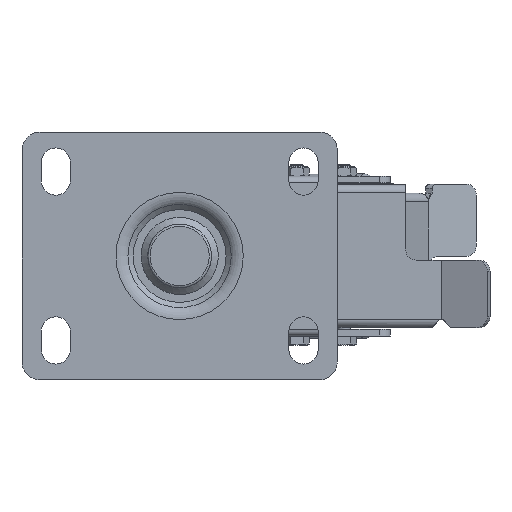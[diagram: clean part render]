
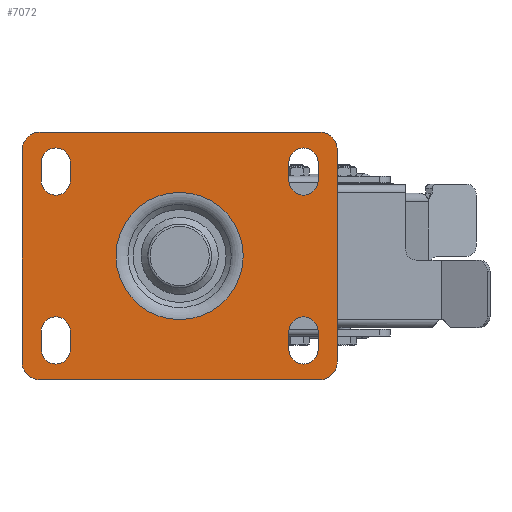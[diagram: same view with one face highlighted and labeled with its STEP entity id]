
A CAD part, top view. The second image highlights one B-rep face of the part: STEP entity #7072.
In plain terms, the highlighted planar face has unit normal (0, 0, 1).
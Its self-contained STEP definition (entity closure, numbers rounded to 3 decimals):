
#786=(
BOUNDED_CURVE()
B_SPLINE_CURVE(3,(#44615,#44616,#44617,#44618,#44619,#44620,#44621,#44622,
#44623,#44624),.UNSPECIFIED.,.F.,.F.)
B_SPLINE_CURVE_WITH_KNOTS((4,3,3,4),(0.,0.094,0.924,
1.),.UNSPECIFIED.)
CURVE()
GEOMETRIC_REPRESENTATION_ITEM()
RATIONAL_B_SPLINE_CURVE((0.586,0.471,0.471,
0.586,0.586,0.586,0.586,
0.471,0.471,0.586))
REPRESENTATION_ITEM('')
);
#787=(
BOUNDED_CURVE()
B_SPLINE_CURVE(3,(#44627,#44628,#44629,#44630,#44631,#44632,#44633,#44634,
#44635,#44636,#44637,#44638,#44639,#44640,#44641,#44642),.UNSPECIFIED.,.F.,
 .F.)
B_SPLINE_CURVE_WITH_KNOTS((4,3,3,3,3,4),(0.,0.342,0.383,
0.746,0.779,1.),.UNSPECIFIED.)
CURVE()
GEOMETRIC_REPRESENTATION_ITEM()
RATIONAL_B_SPLINE_CURVE((0.586,0.586,0.586,
0.586,0.471,0.471,0.586,
0.586,0.586,0.586,0.471,
0.471,0.586,0.586,0.586,
0.586))
REPRESENTATION_ITEM('')
);
#2864=PLANE('',#24387);
#3734=LINE('',#44583,#4954);
#3735=LINE('',#44588,#4955);
#3736=LINE('',#44594,#4956);
#3737=LINE('',#44598,#4957);
#3738=LINE('',#44602,#4958);
#3739=LINE('',#44606,#4959);
#3740=LINE('',#44607,#4960);
#3741=LINE('',#44612,#4961);
#4954=VECTOR('',#27056,1.);
#4955=VECTOR('',#27059,1.);
#4956=VECTOR('',#27064,1.);
#4957=VECTOR('',#27067,1.);
#4958=VECTOR('',#27070,1.);
#4959=VECTOR('',#27073,1.);
#4960=VECTOR('',#27074,1.);
#4961=VECTOR('',#27077,1.);
#7072=ADVANCED_FACE('',(#8659,#8660,#8661,#8662,#8663,#8664),#2864,.F.);
#8659=FACE_BOUND('',#9334,.T.);
#8660=FACE_BOUND('',#9335,.T.);
#8661=FACE_BOUND('',#9336,.T.);
#8662=FACE_BOUND('',#9337,.T.);
#8663=FACE_BOUND('',#9338,.T.);
#8664=FACE_BOUND('',#9339,.T.);
#9334=EDGE_LOOP('',(#12360,#12361,#12362,#12363));
#9335=EDGE_LOOP('',(#12364,#12365,#12366,#12367));
#9336=EDGE_LOOP('',(#12368,#12369,#12370,#12371));
#9337=EDGE_LOOP('',(#12372,#12373,#12374,#12375));
#9338=EDGE_LOOP('',(#12376));
#9339=EDGE_LOOP('',(#12377,#12378));
#12360=ORIENTED_EDGE('',*,*,#20760,.F.);
#12361=ORIENTED_EDGE('',*,*,#20761,.F.);
#12362=ORIENTED_EDGE('',*,*,#20762,.F.);
#12363=ORIENTED_EDGE('',*,*,#20763,.F.);
#12364=ORIENTED_EDGE('',*,*,#20764,.F.);
#12365=ORIENTED_EDGE('',*,*,#20765,.T.);
#12366=ORIENTED_EDGE('',*,*,#20766,.T.);
#12367=ORIENTED_EDGE('',*,*,#20767,.T.);
#12368=ORIENTED_EDGE('',*,*,#20768,.T.);
#12369=ORIENTED_EDGE('',*,*,#20769,.F.);
#12370=ORIENTED_EDGE('',*,*,#20770,.F.);
#12371=ORIENTED_EDGE('',*,*,#20771,.F.);
#12372=ORIENTED_EDGE('',*,*,#20772,.F.);
#12373=ORIENTED_EDGE('',*,*,#20773,.F.);
#12374=ORIENTED_EDGE('',*,*,#20774,.F.);
#12375=ORIENTED_EDGE('',*,*,#20775,.F.);
#12376=ORIENTED_EDGE('',*,*,#20759,.T.);
#12377=ORIENTED_EDGE('',*,*,#20776,.T.);
#12378=ORIENTED_EDGE('',*,*,#20777,.T.);
#18299=VERTEX_POINT('',#44581);
#18300=VERTEX_POINT('',#44584);
#18301=VERTEX_POINT('',#44585);
#18302=VERTEX_POINT('',#44587);
#18303=VERTEX_POINT('',#44589);
#18304=VERTEX_POINT('',#44592);
#18305=VERTEX_POINT('',#44593);
#18306=VERTEX_POINT('',#44595);
#18307=VERTEX_POINT('',#44597);
#18308=VERTEX_POINT('',#44600);
#18309=VERTEX_POINT('',#44601);
#18310=VERTEX_POINT('',#44603);
#18311=VERTEX_POINT('',#44605);
#18312=VERTEX_POINT('',#44608);
#18313=VERTEX_POINT('',#44609);
#18314=VERTEX_POINT('',#44611);
#18315=VERTEX_POINT('',#44613);
#18316=VERTEX_POINT('',#44625);
#18317=VERTEX_POINT('',#44626);
#20759=EDGE_CURVE('',#18299,#18299,#23459,.T.);
#20760=EDGE_CURVE('',#18300,#18301,#3734,.T.);
#20761=EDGE_CURVE('',#18302,#18300,#23460,.T.);
#20762=EDGE_CURVE('',#18303,#18302,#3735,.T.);
#20763=EDGE_CURVE('',#18301,#18303,#23461,.T.);
#20764=EDGE_CURVE('',#18304,#18305,#23462,.T.);
#20765=EDGE_CURVE('',#18304,#18306,#3736,.T.);
#20766=EDGE_CURVE('',#18306,#18307,#23463,.T.);
#20767=EDGE_CURVE('',#18307,#18305,#3737,.T.);
#20768=EDGE_CURVE('',#18308,#18309,#23464,.T.);
#20769=EDGE_CURVE('',#18310,#18309,#3738,.T.);
#20770=EDGE_CURVE('',#18311,#18310,#23465,.T.);
#20771=EDGE_CURVE('',#18308,#18311,#3739,.T.);
#20772=EDGE_CURVE('',#18312,#18313,#3740,.T.);
#20773=EDGE_CURVE('',#18314,#18312,#23466,.T.);
#20774=EDGE_CURVE('',#18315,#18314,#3741,.T.);
#20775=EDGE_CURVE('',#18313,#18315,#23467,.T.);
#20776=EDGE_CURVE('',#18316,#18317,#786,.T.);
#20777=EDGE_CURVE('',#18317,#18316,#787,.T.);
#23459=CIRCLE('',#24377,28.243);
#23460=CIRCLE('',#24379,6.5);
#23461=CIRCLE('',#24380,6.5);
#23462=CIRCLE('',#24381,6.5);
#23463=CIRCLE('',#24382,6.5);
#23464=CIRCLE('',#24383,6.5);
#23465=CIRCLE('',#24384,6.5);
#23466=CIRCLE('',#24385,6.5);
#23467=CIRCLE('',#24386,6.5);
#24377=AXIS2_PLACEMENT_3D('',#44580,#27052,#27053);
#24379=AXIS2_PLACEMENT_3D('',#44586,#27057,#27058);
#24380=AXIS2_PLACEMENT_3D('',#44590,#27060,#27061);
#24381=AXIS2_PLACEMENT_3D('',#44591,#27062,#27063);
#24382=AXIS2_PLACEMENT_3D('',#44596,#27065,#27066);
#24383=AXIS2_PLACEMENT_3D('',#44599,#27068,#27069);
#24384=AXIS2_PLACEMENT_3D('',#44604,#27071,#27072);
#24385=AXIS2_PLACEMENT_3D('',#44610,#27075,#27076);
#24386=AXIS2_PLACEMENT_3D('',#44614,#27078,#27079);
#24387=AXIS2_PLACEMENT_3D('',#44643,#27080,#27081);
#27052=DIRECTION('',(0.,0.,-1.));
#27053=DIRECTION('',(1.,0.,0.));
#27056=DIRECTION('',(0.,-1.,0.));
#27057=DIRECTION('',(0.,0.,1.));
#27058=DIRECTION('',(1.,0.,0.));
#27059=DIRECTION('',(0.,1.,0.));
#27060=DIRECTION('',(0.,0.,1.));
#27061=DIRECTION('',(1.,0.,0.));
#27062=DIRECTION('',(0.,0.,1.));
#27063=DIRECTION('',(1.,0.,0.));
#27064=DIRECTION('',(0.,1.,0.));
#27065=DIRECTION('',(0.,0.,-1.));
#27066=DIRECTION('',(1.,0.,0.));
#27067=DIRECTION('',(0.,-1.,0.));
#27068=DIRECTION('',(0.,0.,-1.));
#27069=DIRECTION('',(1.,0.,0.));
#27070=DIRECTION('',(0.,-1.,0.));
#27071=DIRECTION('',(0.,0.,1.));
#27072=DIRECTION('',(1.,0.,0.));
#27073=DIRECTION('',(0.,1.,0.));
#27074=DIRECTION('',(0.,-1.,0.));
#27075=DIRECTION('',(0.,0.,1.));
#27076=DIRECTION('',(1.,0.,0.));
#27077=DIRECTION('',(0.,1.,0.));
#27078=DIRECTION('',(0.,0.,1.));
#27079=DIRECTION('',(1.,0.,0.));
#27080=DIRECTION('',(0.,0.,-1.));
#27081=DIRECTION('',(-1.,0.,0.));
#44580=CARTESIAN_POINT('',(0.,0.,0.));
#44581=CARTESIAN_POINT('',(28.243,0.,0.));
#44583=CARTESIAN_POINT('',(-61.5,-55.,0.));
#44584=CARTESIAN_POINT('',(-61.5,-33.5,0.));
#44585=CARTESIAN_POINT('',(-61.5,-41.5,0.));
#44586=CARTESIAN_POINT('',(-55.,-33.5,0.));
#44587=CARTESIAN_POINT('',(-48.5,-33.5,0.));
#44588=CARTESIAN_POINT('',(-48.5,-55.,0.));
#44589=CARTESIAN_POINT('',(-48.5,-41.5,0.));
#44590=CARTESIAN_POINT('',(-55.,-41.5,0.));
#44591=CARTESIAN_POINT('',(-55.,33.5,0.));
#44592=CARTESIAN_POINT('',(-61.5,33.5,0.));
#44593=CARTESIAN_POINT('',(-48.5,33.5,0.));
#44594=CARTESIAN_POINT('',(-61.5,-55.,0.));
#44595=CARTESIAN_POINT('',(-61.5,41.5,0.));
#44596=CARTESIAN_POINT('',(-55.,41.5,0.));
#44597=CARTESIAN_POINT('',(-48.5,41.5,0.));
#44598=CARTESIAN_POINT('',(-48.5,-55.,0.));
#44599=CARTESIAN_POINT('',(55.,33.5,0.));
#44600=CARTESIAN_POINT('',(61.5,33.5,0.));
#44601=CARTESIAN_POINT('',(48.5,33.5,0.));
#44602=CARTESIAN_POINT('',(48.5,-55.,0.));
#44603=CARTESIAN_POINT('',(48.5,41.5,0.));
#44604=CARTESIAN_POINT('',(55.,41.5,0.));
#44605=CARTESIAN_POINT('',(61.5,41.5,0.));
#44606=CARTESIAN_POINT('',(61.5,-55.,0.));
#44607=CARTESIAN_POINT('',(48.5,-55.,0.));
#44608=CARTESIAN_POINT('',(48.5,-33.5,0.));
#44609=CARTESIAN_POINT('',(48.5,-41.5,0.));
#44610=CARTESIAN_POINT('',(55.,-33.5,0.));
#44611=CARTESIAN_POINT('',(61.5,-33.5,0.));
#44612=CARTESIAN_POINT('',(61.5,-55.,0.));
#44613=CARTESIAN_POINT('',(61.5,-41.5,0.));
#44614=CARTESIAN_POINT('',(55.,-41.5,0.));
#44615=CARTESIAN_POINT('',(-70.,-47.,0.));
#44616=CARTESIAN_POINT('',(-70.,-51.686,0.));
#44617=CARTESIAN_POINT('',(-66.686,-55.,0.));
#44618=CARTESIAN_POINT('',(-62.,-55.,0.));
#44619=CARTESIAN_POINT('',(-20.667,-55.,0.));
#44620=CARTESIAN_POINT('',(20.667,-55.,0.));
#44621=CARTESIAN_POINT('',(62.,-55.,0.));
#44622=CARTESIAN_POINT('',(66.686,-55.,0.));
#44623=CARTESIAN_POINT('',(70.,-51.686,0.));
#44624=CARTESIAN_POINT('',(70.,-47.,0.));
#44625=CARTESIAN_POINT('',(-70.,-47.,0.));
#44626=CARTESIAN_POINT('',(70.,-47.,0.));
#44627=CARTESIAN_POINT('',(70.,-47.,0.));
#44628=CARTESIAN_POINT('',(70.,-15.667,0.));
#44629=CARTESIAN_POINT('',(70.,15.667,0.));
#44630=CARTESIAN_POINT('',(70.,47.,0.));
#44631=CARTESIAN_POINT('',(70.,51.686,0.));
#44632=CARTESIAN_POINT('',(66.686,55.,0.));
#44633=CARTESIAN_POINT('',(62.,55.,0.));
#44634=CARTESIAN_POINT('',(20.667,55.,0.));
#44635=CARTESIAN_POINT('',(-20.667,55.,0.));
#44636=CARTESIAN_POINT('',(-62.,55.,0.));
#44637=CARTESIAN_POINT('',(-66.686,55.,0.));
#44638=CARTESIAN_POINT('',(-70.,51.686,0.));
#44639=CARTESIAN_POINT('',(-70.,47.,0.));
#44640=CARTESIAN_POINT('',(-70.,15.667,0.));
#44641=CARTESIAN_POINT('',(-70.,-15.667,0.));
#44642=CARTESIAN_POINT('',(-70.,-47.,0.));
#44643=CARTESIAN_POINT('',(-1.373,-55.,0.));
